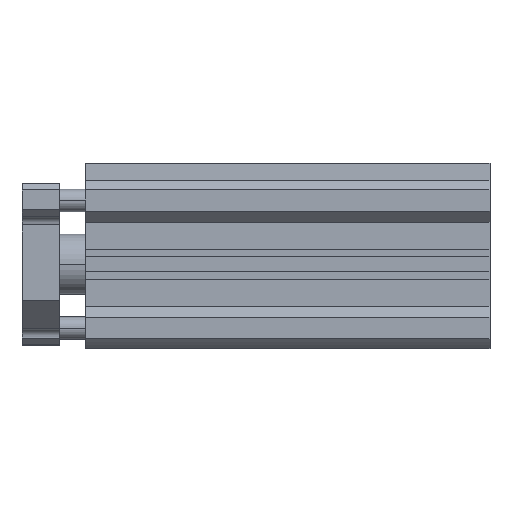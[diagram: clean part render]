
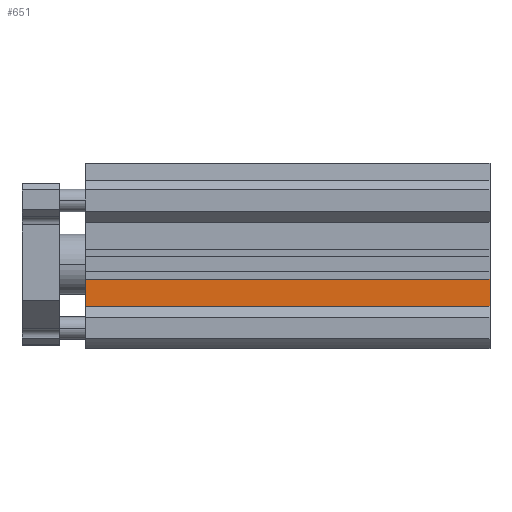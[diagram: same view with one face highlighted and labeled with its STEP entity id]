
A CAD part, top view. The second image highlights one B-rep face of the part: STEP entity #651.
In plain terms, the highlighted planar face has unit normal (0, 0, 1).
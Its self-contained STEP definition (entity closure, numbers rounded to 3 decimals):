
#69 = LINE ( 'NONE', #1654, #1964 ) ;
#191 = DIRECTION ( 'NONE',  ( 0., -1., 0. ) ) ;
#651 = ADVANCED_FACE ( 'NONE', ( #1796 ), #2903, .F. ) ;
#700 = DIRECTION ( 'NONE',  ( -1., 0., 0. ) ) ;
#900 = EDGE_CURVE ( 'NONE', #2854, #1715, #4982, .T. ) ;
#1045 = LINE ( 'NONE', #2190, #3356 ) ;
#1094 = ORIENTED_EDGE ( 'NONE', *, *, #900, .T. ) ;
#1401 = DIRECTION ( 'NONE',  ( 0., -1., 0. ) ) ;
#1510 = ORIENTED_EDGE ( 'NONE', *, *, #2897, .F. ) ;
#1654 = CARTESIAN_POINT ( 'NONE',  ( 108., -11.2, 19.5 ) ) ;
#1707 = CARTESIAN_POINT ( 'NONE',  ( 0., -4., 19.5 ) ) ;
#1715 = VERTEX_POINT ( 'NONE', #4988 ) ;
#1796 = FACE_OUTER_BOUND ( 'NONE', #2115, .T. ) ;
#1823 = CARTESIAN_POINT ( 'NONE',  ( 108., -4., 19.5 ) ) ;
#1964 = VECTOR ( 'NONE', #3233, 1000. ) ;
#2037 = VERTEX_POINT ( 'NONE', #4280 ) ;
#2115 = EDGE_LOOP ( 'NONE', ( #1094, #1510, #4763, #2747 ) ) ;
#2128 = CARTESIAN_POINT ( 'NONE',  ( 108., -11.2, 19.5 ) ) ;
#2178 = DIRECTION ( 'NONE',  ( 0., -1., 0. ) ) ;
#2190 = CARTESIAN_POINT ( 'NONE',  ( 108., -4., 19.5 ) ) ;
#2467 = EDGE_CURVE ( 'NONE', #2037, #4054, #2552, .T. ) ;
#2552 = LINE ( 'NONE', #4200, #4774 ) ;
#2747 = ORIENTED_EDGE ( 'NONE', *, *, #5096, .T. ) ;
#2854 = VERTEX_POINT ( 'NONE', #1707 ) ;
#2897 = EDGE_CURVE ( 'NONE', #4054, #1715, #69, .T. ) ;
#2903 = PLANE ( 'NONE',  #4434 ) ;
#3233 = DIRECTION ( 'NONE',  ( -1., 0., 0. ) ) ;
#3356 = VECTOR ( 'NONE', #700, 1000. ) ;
#3687 = DIRECTION ( 'NONE',  ( 0., 0., -1. ) ) ;
#4054 = VERTEX_POINT ( 'NONE', #2128 ) ;
#4200 = CARTESIAN_POINT ( 'NONE',  ( 108., -4., 19.5 ) ) ;
#4280 = CARTESIAN_POINT ( 'NONE',  ( 108., -4., 19.5 ) ) ;
#4434 = AXIS2_PLACEMENT_3D ( 'NONE', #1823, #3687, #1401 ) ;
#4763 = ORIENTED_EDGE ( 'NONE', *, *, #2467, .F. ) ;
#4774 = VECTOR ( 'NONE', #191, 1000. ) ;
#4856 = VECTOR ( 'NONE', #2178, 1000. ) ;
#4959 = CARTESIAN_POINT ( 'NONE',  ( 0., -4., 19.5 ) ) ;
#4982 = LINE ( 'NONE', #4959, #4856 ) ;
#4988 = CARTESIAN_POINT ( 'NONE',  ( 0., -11.2, 19.5 ) ) ;
#5096 = EDGE_CURVE ( 'NONE', #2037, #2854, #1045, .T. ) ;
